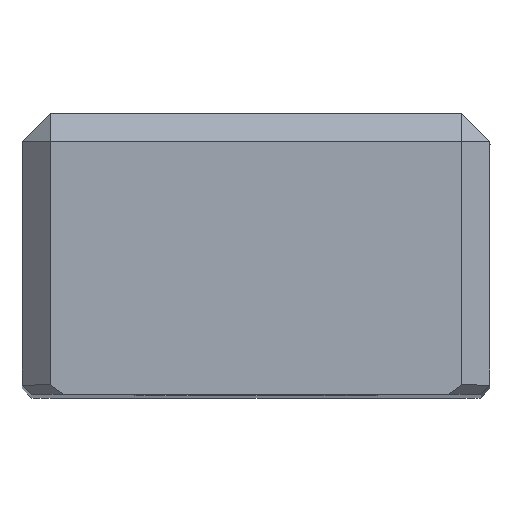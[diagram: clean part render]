
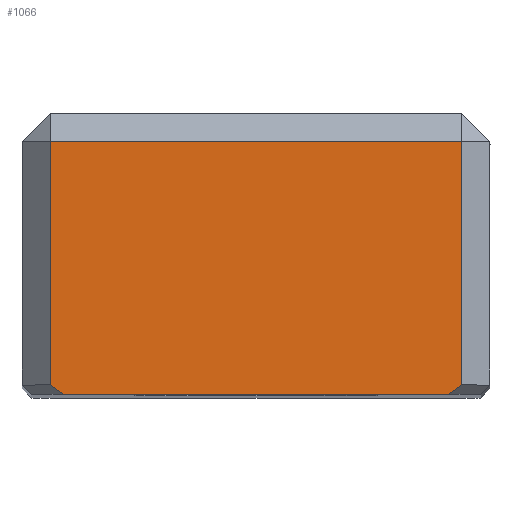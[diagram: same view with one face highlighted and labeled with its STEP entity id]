
A CAD part, top view. The second image highlights one B-rep face of the part: STEP entity #1066.
In plain terms, the highlighted planar face has unit normal (0, 0, 1).
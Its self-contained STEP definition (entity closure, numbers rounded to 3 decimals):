
#1023=AXIS2_PLACEMENT_3D('Plane Axis2P3D',#1020,#1021,#1022) ;
#456=CARTESIAN_POINT('Vertex',(-22.,-3.,0.)) ;
#459=CARTESIAN_POINT('Line Origine',(0.,-3.,0.)) ;
#463=CARTESIAN_POINT('Vertex',(22.,-3.,0.)) ;
#1020=CARTESIAN_POINT('Axis2P3D Location',(25.,0.,0.)) ;
#1025=CARTESIAN_POINT('Line Origine',(21.293,-29.5,0.)) ;
#1029=CARTESIAN_POINT('Vertex',(22.,-29.,0.)) ;
#1031=CARTESIAN_POINT('Vertex',(20.586,-30.,0.)) ;
#1034=CARTESIAN_POINT('Line Origine',(22.,-16.,0.)) ;
#1039=CARTESIAN_POINT('Line Origine',(-22.,-16.,0.)) ;
#1043=CARTESIAN_POINT('Vertex',(-22.,-29.,0.)) ;
#1046=CARTESIAN_POINT('Line Origine',(-21.293,-29.5,0.)) ;
#1050=CARTESIAN_POINT('Vertex',(-20.586,-30.,0.)) ;
#1053=CARTESIAN_POINT('Line Origine',(0.,-30.,0.)) ;
#460=DIRECTION('Vector Direction',(1.,0.,0.)) ;
#1021=DIRECTION('Axis2P3D Direction',(0.,0.,1.)) ;
#1022=DIRECTION('Axis2P3D XDirection',(-1.,0.,0.)) ;
#1026=DIRECTION('Vector Direction',(0.816,0.577,0.)) ;
#1035=DIRECTION('Vector Direction',(0.,-1.,0.)) ;
#1040=DIRECTION('Vector Direction',(0.,1.,0.)) ;
#1047=DIRECTION('Vector Direction',(0.816,-0.577,0.)) ;
#1054=DIRECTION('Vector Direction',(1.,0.,0.)) ;
#461=VECTOR('Line Direction',#460,1.) ;
#1027=VECTOR('Line Direction',#1026,1.) ;
#1036=VECTOR('Line Direction',#1035,1.) ;
#1041=VECTOR('Line Direction',#1040,1.) ;
#1048=VECTOR('Line Direction',#1047,1.) ;
#1055=VECTOR('Line Direction',#1054,1.) ;
#1059=ORIENTED_EDGE('',*,*,#1033,.F.) ;
#1060=ORIENTED_EDGE('',*,*,#1038,.F.) ;
#1061=ORIENTED_EDGE('',*,*,#465,.F.) ;
#1062=ORIENTED_EDGE('',*,*,#1045,.F.) ;
#1063=ORIENTED_EDGE('',*,*,#1052,.F.) ;
#1064=ORIENTED_EDGE('',*,*,#1057,.T.) ;
#1066=ADVANCED_FACE('MANIFOLD_SOLID_BREP #2918',(#1065),#1024,.T.) ;
#465=EDGE_CURVE('',#457,#464,#462,.T.) ;
#1033=EDGE_CURVE('',#1030,#1032,#1028,.F.) ;
#1038=EDGE_CURVE('',#464,#1030,#1037,.T.) ;
#1045=EDGE_CURVE('',#1044,#457,#1042,.T.) ;
#1052=EDGE_CURVE('',#1051,#1044,#1049,.F.) ;
#1057=EDGE_CURVE('',#1051,#1032,#1056,.T.) ;
#1058=EDGE_LOOP('',(#1059,#1060,#1061,#1062,#1063,#1064)) ;
#1065=FACE_OUTER_BOUND('',#1058,.T.) ;
#462=LINE('Line',#459,#461) ;
#1028=LINE('Line',#1025,#1027) ;
#1037=LINE('Line',#1034,#1036) ;
#1042=LINE('Line',#1039,#1041) ;
#1049=LINE('Line',#1046,#1048) ;
#1056=LINE('Line',#1053,#1055) ;
#1024=PLANE('Plane',#1023) ;
#457=VERTEX_POINT('',#456) ;
#464=VERTEX_POINT('',#463) ;
#1030=VERTEX_POINT('',#1029) ;
#1032=VERTEX_POINT('',#1031) ;
#1044=VERTEX_POINT('',#1043) ;
#1051=VERTEX_POINT('',#1050) ;
